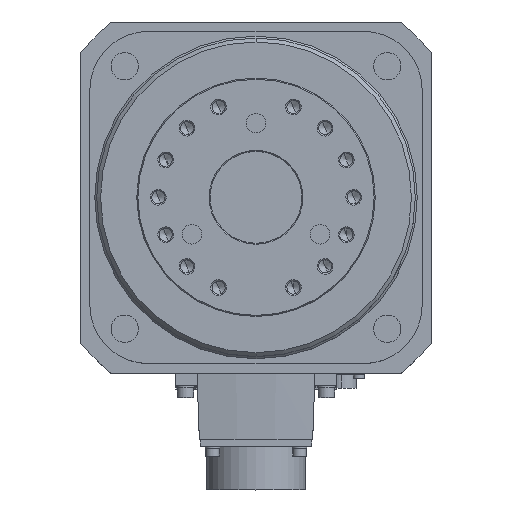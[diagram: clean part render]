
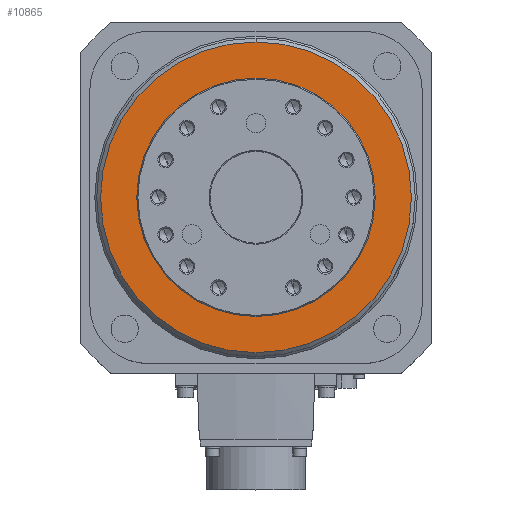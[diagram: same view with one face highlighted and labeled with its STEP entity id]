
A CAD part, top view. The second image highlights one B-rep face of the part: STEP entity #10865.
In plain terms, the highlighted planar face has unit normal (0, 0, 1).
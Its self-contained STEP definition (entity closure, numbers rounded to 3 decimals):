
#547=CARTESIAN_POINT('',(0.,0.,51.));
#548=DIRECTION('',(0.,0.,-1.));
#549=DIRECTION('',(0.,1.,0.));
#550=AXIS2_PLACEMENT_3D('',#547,#548,#549);
#552=CARTESIAN_POINT('',(0.,0.,51.));
#553=DIRECTION('',(0.,0.,-1.));
#554=DIRECTION('',(0.,-1.,0.));
#555=AXIS2_PLACEMENT_3D('',#552,#553,#554);
#557=CARTESIAN_POINT('',(0.,0.,51.));
#558=DIRECTION('',(0.,0.,1.));
#559=DIRECTION('',(0.,-1.,0.));
#560=AXIS2_PLACEMENT_3D('',#557,#558,#559);
#562=CARTESIAN_POINT('',(0.,0.,51.));
#563=DIRECTION('',(0.,0.,1.));
#564=DIRECTION('',(0.,1.,0.));
#565=AXIS2_PLACEMENT_3D('',#562,#563,#564);
#7999=CARTESIAN_POINT('',(0.,79.5,51.));
#8000=VERTEX_POINT('',#7999);
#8001=CARTESIAN_POINT('',(0.,-79.5,51.));
#8002=VERTEX_POINT('',#8001);
#8003=CARTESIAN_POINT('',(0.,-61.,51.));
#8004=CARTESIAN_POINT('',(0.,61.,51.));
#8005=VERTEX_POINT('',#8003);
#8006=VERTEX_POINT('',#8004);
#10850=CARTESIAN_POINT('',(0.,0.,51.));
#10851=DIRECTION('',(0.,0.,1.));
#10852=DIRECTION('',(0.,-1.,0.));
#10853=AXIS2_PLACEMENT_3D('',#10850,#10851,#10852);
#10854=PLANE('',#10853);
#10855=ORIENTED_EDGE('',*,*,#10832,.T.);
#10856=ORIENTED_EDGE('',*,*,#10843,.T.);
#10857=EDGE_LOOP('',(#10855,#10856));
#10858=FACE_OUTER_BOUND('',#10857,.F.);
#10860=ORIENTED_EDGE('',*,*,#10859,.T.);
#10862=ORIENTED_EDGE('',*,*,#10861,.T.);
#10863=EDGE_LOOP('',(#10860,#10862));
#10864=FACE_BOUND('',#10863,.F.);
#10865=ADVANCED_FACE('',(#10858,#10864),#10854,.T.);
#551=CIRCLE('',#550,79.5);
#556=CIRCLE('',#555,79.5);
#561=CIRCLE('',#560,61.);
#566=CIRCLE('',#565,61.);
#10832=EDGE_CURVE('',#8000,#8002,#551,.T.);
#10843=EDGE_CURVE('',#8002,#8000,#556,.T.);
#10859=EDGE_CURVE('',#8005,#8006,#561,.T.);
#10861=EDGE_CURVE('',#8006,#8005,#566,.T.);
